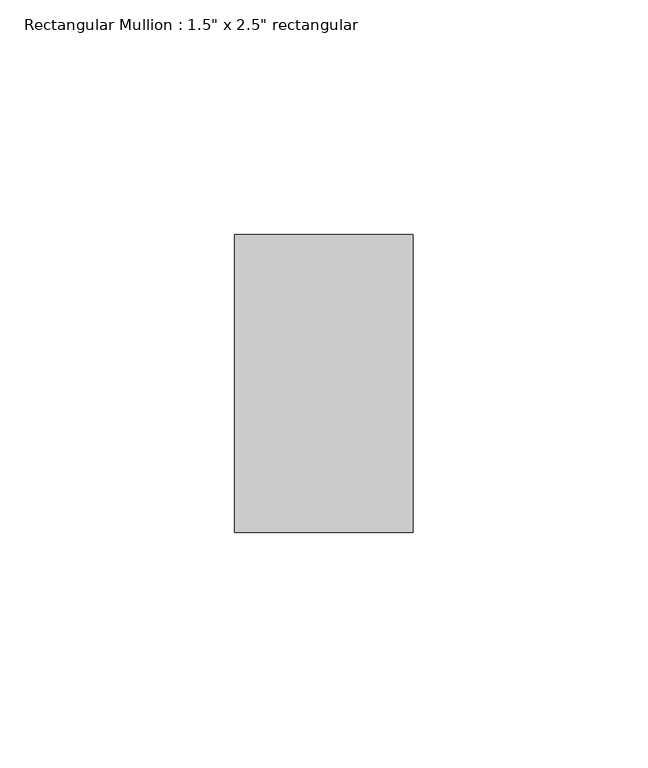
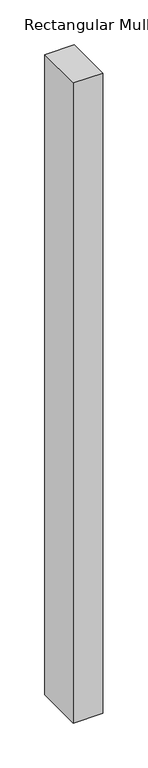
"""IFC4 building model written with IfcOpenShell, lengths in millimetres: member geometry."""

from ifc_helpers import new_model, si_unit, frame, origin, place, context, project, spatial, polyline, outline, extrude, source, transform, mapped, element, save


def member_c95b2b18(model_context):
    return source(origin(), model_context, "Body", "SweptSolid", [
        extrude(outline(polyline([(0.0, 31.75), (0.0, -31.75), (-38.1, -31.75), (-38.1, 31.75), (0.0, 31.75)])), frame((0.0, 0.0, -871.864222), z_axis=(0.0, 0.0, 1.0), x_axis=(1.0, 0.0, 0.0)), (0.0, 0.0, 1.0), 871.864222),
    ])


if __name__ == "__main__":
    model = new_model("IFC4")
    model_context = context("Model", 3, world=origin())
    ifc_project = project(units=[si_unit("LENGTHUNIT", "METRE", prefix="MILLI")], contexts=[model_context])
    site = spatial("IfcSite", under=ifc_project)
    building = spatial("IfcBuilding", under=site)
    placement = place(None, origin())
    member_shape = member_c95b2b18(model_context)
    element("IfcMember", 1, ObjectType="Rectangular Mullion : 1.5\" x 2.5\" rectangular", at=placement, inside=building, context=model_context, shape_type="MappedRepresentation", body=[
        mapped(member_shape, transform((0.0, 0.0, 0.0), x_axis=(1.0, 0.0, 0.0), y_axis=(0.0, 1.0, 0.0), z_axis=(0.0, 0.0, 1.0))),
    ])
    save(model, "model.ifc")
